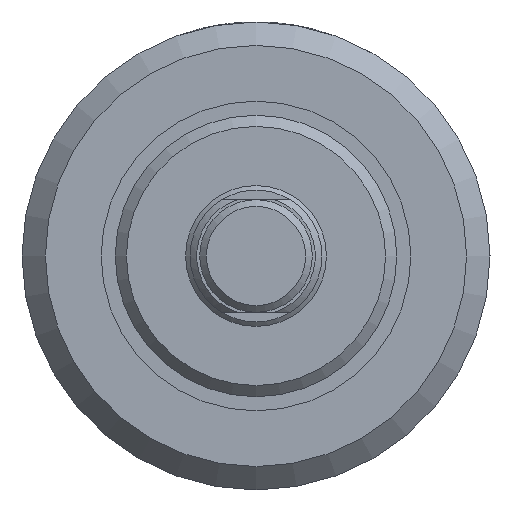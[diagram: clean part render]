
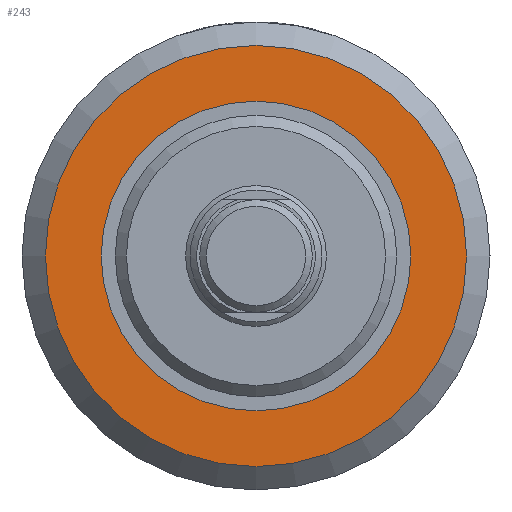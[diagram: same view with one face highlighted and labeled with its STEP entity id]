
A CAD part, left-side view. The second image highlights one B-rep face of the part: STEP entity #243.
In plain terms, the highlighted planar face has unit normal (-1, 0, 0).
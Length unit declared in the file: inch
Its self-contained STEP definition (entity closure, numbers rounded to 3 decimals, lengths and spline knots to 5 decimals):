
#243 = ADVANCED_FACE( '', ( #504, #505 ), #506, .F. );
#504 = FACE_OUTER_BOUND( '', #758, .T. );
#505 = FACE_BOUND( '', #759, .T. );
#506 = PLANE( '', #760 );
#758 = EDGE_LOOP( '', ( #1184 ) );
#759 = EDGE_LOOP( '', ( #1185 ) );
#760 = AXIS2_PLACEMENT_3D( '', #1186, #1187, #1188 );
#1184 = ORIENTED_EDGE( '', *, *, #1391, .F. );
#1185 = ORIENTED_EDGE( '', *, *, #1382, .T. );
#1186 = CARTESIAN_POINT( '', ( 0.813, 0.6875, 0. ) );
#1187 = DIRECTION( '', ( 1., 0., 0. ) );
#1188 = DIRECTION( '', ( 0., 0., -1. ) );
#1382 = EDGE_CURVE( '', #1613, #1613, #1614, .T. );
#1391 = EDGE_CURVE( '', #1625, #1625, #1626, .T. );
#1613 = VERTEX_POINT( '', #2084 );
#1614 = CIRCLE( '', #2085, 0.6875 );
#1625 = VERTEX_POINT( '', #2096 );
#1626 = CIRCLE( '', #2097, 0.9351 );
#2084 = CARTESIAN_POINT( '', ( 0.813, 0., -0.6875 ) );
#2085 = AXIS2_PLACEMENT_3D( '', #2294, #2295, #2296 );
#2096 = CARTESIAN_POINT( '', ( 0.813, 0., -0.9351 ) );
#2097 = AXIS2_PLACEMENT_3D( '', #2303, #2304, #2305 );
#2294 = CARTESIAN_POINT( '', ( 0.813, 0., 0. ) );
#2295 = DIRECTION( '', ( 1., 0., 0. ) );
#2296 = DIRECTION( '', ( 0., 0., -1. ) );
#2303 = CARTESIAN_POINT( '', ( 0.813, 0., 0. ) );
#2304 = DIRECTION( '', ( 1., 0., 0. ) );
#2305 = DIRECTION( '', ( 0., 0., -1. ) );
